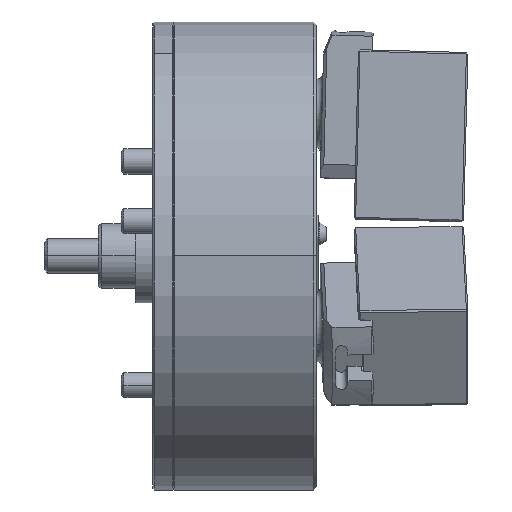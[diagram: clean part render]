
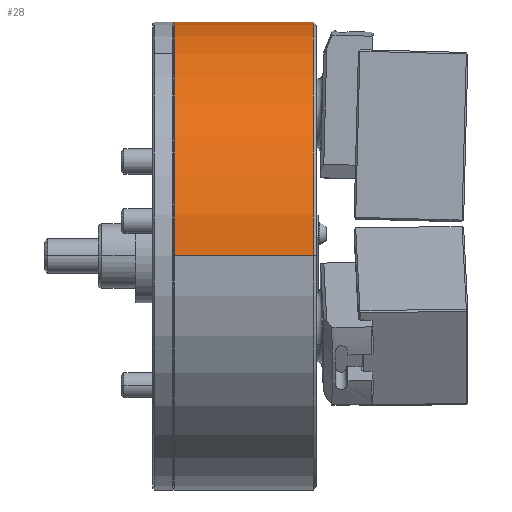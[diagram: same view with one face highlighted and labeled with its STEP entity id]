
A CAD part, top view. The second image highlights one B-rep face of the part: STEP entity #28.
In plain terms, the highlighted cylindrical face has radius 150 mm (diameter 300 mm), a partial arc.
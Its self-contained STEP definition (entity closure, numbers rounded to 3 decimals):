
#28 = ADVANCED_FACE ( 'NONE', ( #38477 ), #37212, .T. ) ;
#5645 = VERTEX_POINT ( 'NONE', #22268 ) ;
#5927 = CARTESIAN_POINT ( 'NONE',  ( -91.2, 0., 0. ) ) ;
#6116 = VECTOR ( 'NONE', #40216, 1000. ) ;
#8059 = EDGE_CURVE ( 'NONE', #16525, #5645, #16715, .T. ) ;
#8215 = AXIS2_PLACEMENT_3D ( 'NONE', #5927, #33701, #9910 ) ;
#9910 = DIRECTION ( 'NONE',  ( 0., 0., -1. ) ) ;
#11518 = EDGE_CURVE ( 'NONE', #36709, #5645, #16622, .T. ) ;
#12699 = DIRECTION ( 'NONE',  ( 0., 0., -1. ) ) ;
#16018 = ORIENTED_EDGE ( 'NONE', *, *, #21765, .F. ) ;
#16525 = VERTEX_POINT ( 'NONE', #47263 ) ;
#16622 = LINE ( 'NONE', #24225, #6116 ) ;
#16715 = CIRCLE ( 'NONE', #43231, 150. ) ;
#20935 = EDGE_LOOP ( 'NONE', ( #25337, #47277, #43531, #16018 ) ) ;
#21570 = DIRECTION ( 'NONE',  ( 1., 0., 0. ) ) ;
#21765 = EDGE_CURVE ( 'NONE', #44242, #16525, #34697, .T. ) ;
#22268 = CARTESIAN_POINT ( 'NONE',  ( -2., 0., 150. ) ) ;
#24225 = CARTESIAN_POINT ( 'NONE',  ( 63.843, 0., 150. ) ) ;
#25337 = ORIENTED_EDGE ( 'NONE', *, *, #49422, .T. ) ;
#25673 = AXIS2_PLACEMENT_3D ( 'NONE', #34014, #39396, #12699 ) ;
#26447 = CIRCLE ( 'NONE', #8215, 150. ) ;
#28118 = CARTESIAN_POINT ( 'NONE',  ( -91.2, 0., 150. ) ) ;
#30785 = CARTESIAN_POINT ( 'NONE',  ( -91.2, 0., -150. ) ) ;
#33701 = DIRECTION ( 'NONE',  ( 1., 0., 0. ) ) ;
#34014 = CARTESIAN_POINT ( 'NONE',  ( 63.843, 0., 0. ) ) ;
#34238 = CARTESIAN_POINT ( 'NONE',  ( 63.843, 0., -150. ) ) ;
#34697 = LINE ( 'NONE', #34238, #50935 ) ;
#36709 = VERTEX_POINT ( 'NONE', #28118 ) ;
#37212 = CYLINDRICAL_SURFACE ( 'NONE', #25673, 150. ) ;
#38280 = DIRECTION ( 'NONE',  ( 1., 0., 0. ) ) ;
#38477 = FACE_OUTER_BOUND ( 'NONE', #20935, .T. ) ;
#39396 = DIRECTION ( 'NONE',  ( 1., 0., 0. ) ) ;
#40216 = DIRECTION ( 'NONE',  ( 1., 0., 0. ) ) ;
#43231 = AXIS2_PLACEMENT_3D ( 'NONE', #45560, #21570, #49548 ) ;
#43531 = ORIENTED_EDGE ( 'NONE', *, *, #8059, .F. ) ;
#44242 = VERTEX_POINT ( 'NONE', #30785 ) ;
#45560 = CARTESIAN_POINT ( 'NONE',  ( -2., 0., 0. ) ) ;
#47263 = CARTESIAN_POINT ( 'NONE',  ( -2., 0., -150. ) ) ;
#47277 = ORIENTED_EDGE ( 'NONE', *, *, #11518, .T. ) ;
#49422 = EDGE_CURVE ( 'NONE', #44242, #36709, #26447, .T. ) ;
#49548 = DIRECTION ( 'NONE',  ( 0., 0., -1. ) ) ;
#50935 = VECTOR ( 'NONE', #38280, 1000. ) ;
